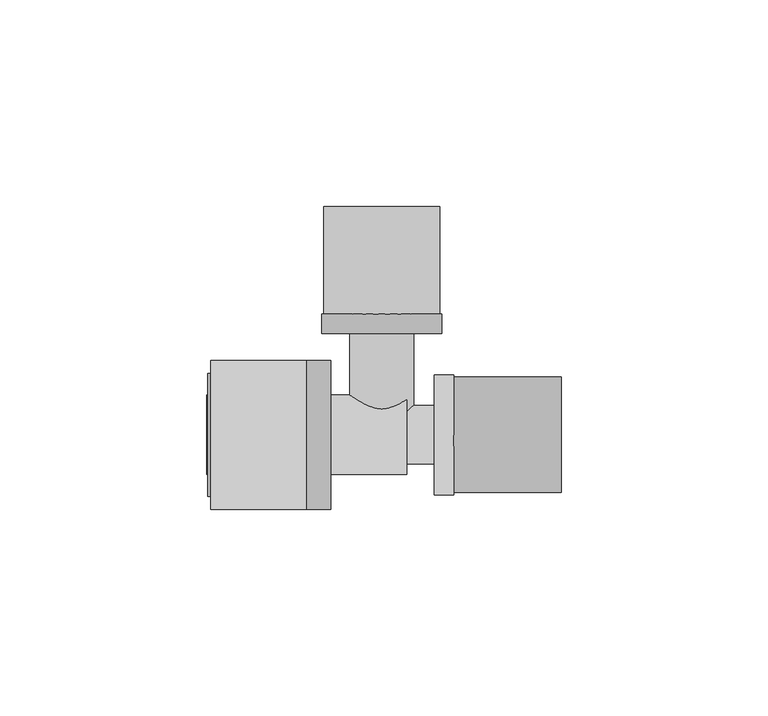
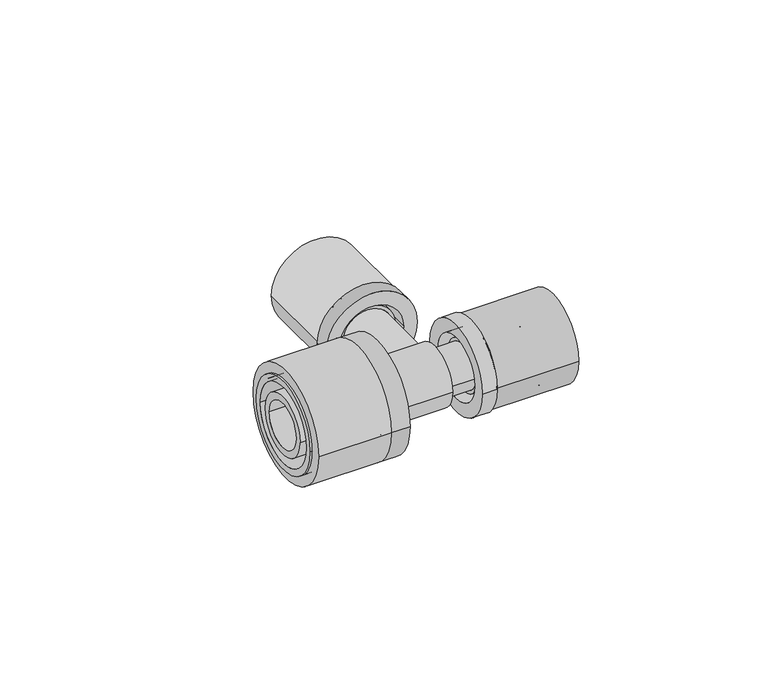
"""IFC4 building model written with IfcOpenShell, lengths in millimetres: pipe fitting geometry, FASTLOC_T-piece_LX : FSL T-Piece LX CZ."""

from ifc_helpers import new_model, si_unit, point, frame, origin, origin_2d, place, context, project, spatial, polyline, circle_curve, trimmed, segment, composite_curve, outline, extrude, source, transform, mapped, element, save
from ifc_brep_helpers import plane_surface, cylinder_surface, revolved_surface, advanced_brep


def pipe_fitting_5d5decb5(model_context):
    return source(origin(), model_context, "Body", "SolidModel", [
        extrude(outline(composite_curve([segment(trimmed(circle_curve(origin_2d(), 14.0), [point((-14.0, 0.0))], [point((14.0, 0.0))], False, "CARTESIAN"), True, "CONTINUOUS"), segment(trimmed(circle_curve(origin_2d(), 14.0), [point((14.0, 0.0))], [point((-14.0, 0.0))], False, "CARTESIAN"), True, "CONTINUOUS")], self_intersect=False), holes=[composite_curve([segment(trimmed(circle_curve(origin_2d(), 10.7), [point((-10.7, 0.0))], [point((10.7, 0.0))], True, "CARTESIAN"), True, "CONTINUOUS"), segment(trimmed(circle_curve(origin_2d(), 10.7), [point((10.7, 0.0))], [point((-10.7, 0.0))], True, "CARTESIAN"), True, "CONTINUOUS")], self_intersect=False)]), frame((17.4, 0.0, 0.0), z_axis=(1.0, 0.0, 0.0), x_axis=(0.0, 1.0, 0.0)), (0.0, 0.0, 1.0), 26.0),
        advanced_brep(
        [(17.4, 14.5, 0.0), (17.4, -14.5, 0.0), (12.7, -14.5, 0.0), (12.7, 14.5, 0.0), (34.4, 11.85, 0.0), (34.4, -11.85, 0.0), (17.4, -11.85, 0.0), (17.4, 11.85, 0.0), (12.7, 10.15, 0.0), (12.7, -10.15, 0.0), (34.4, -10.15, 0.0), (34.4, 10.15, 0.0)],
        [
            (0, 1, circle_curve(frame((17.4, 0.0, 0.0), z_axis=(-1.0, 0.0, 0.0), x_axis=(0.0, -1.0, 0.0)), 14.5)),
            (1, 2),
            (2, 3, circle_curve(frame((12.7, 0.0, 0.0), z_axis=(1.0, 0.0, 0.0), x_axis=(0.0, -1.0, 0.0)), 14.5)),
            (3, 0),
            (4, 5, circle_curve(frame((34.4, 0.0, 0.0), z_axis=(-1.0, 0.0, 0.0), x_axis=(0.0, -1.0, 0.0)), 11.85)),
            (5, 6),
            (6, 7, circle_curve(frame((17.4, 0.0, 0.0), z_axis=(1.0, 0.0, 0.0), x_axis=(0.0, -1.0, 0.0)), 11.85)),
            (7, 4),
            (8, 9, circle_curve(frame((12.7, 0.0, 0.0), z_axis=(-1.0, 0.0, 0.0), x_axis=(0.0, -1.0, 0.0)), 10.15)),
            (9, 10),
            (10, 11, circle_curve(frame((34.4, 0.0, 0.0), z_axis=(1.0, 0.0, 0.0), x_axis=(0.0, -1.0, 0.0)), 10.15)),
            (11, 8),
            (1, 0, circle_curve(frame((17.4, 0.0, 0.0), z_axis=(-1.0, 0.0, 0.0), x_axis=(0.0, 1.0, 0.0)), 14.5)),
            (3, 2, circle_curve(frame((12.7, 0.0, 0.0), z_axis=(1.0, 0.0, 0.0), x_axis=(0.0, 1.0, 0.0)), 14.5)),
            (6, 7, circle_curve(frame((17.4, 0.0, 0.0), z_axis=(-1.0, 0.0, 0.0), x_axis=(0.0, 1.0, 0.0)), 11.85)),
            (5, 4, circle_curve(frame((34.4, 0.0, 0.0), z_axis=(-1.0, 0.0, 0.0), x_axis=(0.0, 1.0, 0.0)), 11.85)),
            (10, 11, circle_curve(frame((34.4, 0.0, 0.0), z_axis=(-1.0, 0.0, 0.0), x_axis=(0.0, 1.0, 0.0)), 10.15)),
            (9, 8, circle_curve(frame((12.7, 0.0, 0.0), z_axis=(-1.0, 0.0, 0.0), x_axis=(0.0, 1.0, 0.0)), 10.15)),
        ],
        [
            cylinder_surface(frame((12.7, 0.0, 0.0), z_axis=(1.0, 0.0, 0.0), x_axis=(0.0, -1.0, 0.0)), 14.5),
            cylinder_surface(frame((12.7, 0.0, 0.0), z_axis=(1.0, 0.0, 0.0), x_axis=(0.0, -1.0, 0.0)), 11.85),
            revolved_surface(polyline([(34.4, -10.15, 0.0), (12.7, -10.15, 0.0)]), (12.7, 0.0, 0.0), (1.0, 0.0, 0.0)),
            cylinder_surface(frame((12.7, 0.0, 0.0), z_axis=(1.0, 0.0, 0.0), x_axis=(0.0, 1.0, 0.0)), 14.5),
            plane_surface(frame((17.4, 0.0, 0.0), z_axis=(1.0, 0.0, 0.0), x_axis=(0.0, 1.0, 0.0))),
            cylinder_surface(frame((12.7, 0.0, 0.0), z_axis=(1.0, 0.0, 0.0), x_axis=(0.0, 1.0, 0.0)), 11.85),
            plane_surface(frame((34.4, 0.0, 0.0), z_axis=(1.0, 0.0, 0.0), x_axis=(0.0, 1.0, 0.0))),
            revolved_surface(polyline([(34.4, 10.15, 0.0), (12.7, 10.15, 0.0)]), (12.7, 0.0, 0.0), (1.0, 0.0, 0.0)),
            plane_surface(frame((12.7, 0.0, 0.0), z_axis=(-1.0, 0.0, 0.0), x_axis=(0.0, 1.0, 0.0))),
        ],
        [
            (0, [[1, 2, 3, 4]]),
            (1, [[5, 6, 7, 8]]),
            (2, [[9, 10, 11, 12]]),
            (3, [[13, -4, 14, -2]]),
            (4, [[-13, -1], [15, -7]]),
            (5, [[16, -8, -15, -6]]),
            (6, [[-16, -5], [17, -11]]),
            (7, [[18, -12, -17, -10]]),
            (8, [[-14, -3], [-18, -9]]),
        ],
    ),
        extrude(outline(composite_curve([segment(trimmed(circle_curve(origin_2d(), 18.0), [point((18.0, 0.0))], [point((-18.0, 0.0))], False, "CARTESIAN"), True, "CONTINUOUS"), segment(trimmed(circle_curve(origin_2d(), 18.0), [point((-18.0, 0.0))], [point((18.0, 0.0))], False, "CARTESIAN"), True, "CONTINUOUS")], self_intersect=False), holes=[composite_curve([segment(trimmed(circle_curve(origin_2d(), 13.5), [point((13.5, 0.0))], [point((-13.5, 0.0))], True, "CARTESIAN"), True, "CONTINUOUS"), segment(trimmed(circle_curve(origin_2d(), 13.5), [point((-13.5, 0.0))], [point((13.5, 0.0))], True, "CARTESIAN"), True, "CONTINUOUS")], self_intersect=False)]), frame((-41.3, 0.0, 0.0), z_axis=(1.0, 0.0, 0.0), x_axis=(0.0, 1.0, 0.0)), (0.0, 0.0, 1.0), 23.0),
        advanced_brep(
        [(-18.3, -18.0, 0.0), (-18.3, 18.0, 0.0), (-12.3, 18.0, 0.0), (-12.3, -18.0, 0.0), (-42.1, -14.85, 0.0), (-42.1, 14.85, 0.0), (-18.3, 14.85, 0.0), (-18.3, -14.85, 0.0), (-12.3, -12.65, 0.0), (-12.3, 12.65, 0.0), (-42.1, 12.65, 0.0), (-42.1, -12.65, 0.0)],
        [
            (0, 1, circle_curve(frame((-18.3, 0.0, 0.0), z_axis=(1.0, 0.0, 0.0), x_axis=(0.0, 1.0, 0.0)), 18.0)),
            (1, 2),
            (2, 3, circle_curve(frame((-12.3, 0.0, 0.0), z_axis=(-1.0, 0.0, 0.0), x_axis=(0.0, 1.0, 0.0)), 18.0)),
            (3, 0),
            (4, 5, circle_curve(frame((-42.1, 0.0, 0.0), z_axis=(1.0, 0.0, 0.0), x_axis=(0.0, 1.0, 0.0)), 14.85)),
            (5, 6),
            (6, 7, circle_curve(frame((-18.3, 0.0, 0.0), z_axis=(-1.0, 0.0, 0.0), x_axis=(0.0, 1.0, 0.0)), 14.85)),
            (7, 4),
            (8, 9, circle_curve(frame((-12.3, 0.0, 0.0), z_axis=(1.0, 0.0, 0.0), x_axis=(0.0, 1.0, 0.0)), 12.65)),
            (9, 10),
            (10, 11, circle_curve(frame((-42.1, 0.0, 0.0), z_axis=(-1.0, 0.0, 0.0), x_axis=(0.0, 1.0, 0.0)), 12.65)),
            (11, 8),
            (1, 0, circle_curve(frame((-18.3, 0.0, 0.0), z_axis=(1.0, 0.0, 0.0), x_axis=(0.0, -1.0, 0.0)), 18.0)),
            (3, 2, circle_curve(frame((-12.3, 0.0, 0.0), z_axis=(-1.0, 0.0, 0.0), x_axis=(0.0, -1.0, 0.0)), 18.0)),
            (6, 7, circle_curve(frame((-18.3, 0.0, 0.0), z_axis=(1.0, 0.0, 0.0), x_axis=(0.0, -1.0, 0.0)), 14.85)),
            (5, 4, circle_curve(frame((-42.1, 0.0, 0.0), z_axis=(1.0, 0.0, 0.0), x_axis=(0.0, -1.0, 0.0)), 14.85)),
            (10, 11, circle_curve(frame((-42.1, 0.0, 0.0), z_axis=(1.0, 0.0, 0.0), x_axis=(0.0, -1.0, 0.0)), 12.65)),
            (9, 8, circle_curve(frame((-12.3, 0.0, 0.0), z_axis=(1.0, 0.0, 0.0), x_axis=(0.0, -1.0, 0.0)), 12.65)),
        ],
        [
            cylinder_surface(frame((-12.3, 0.0, 0.0), z_axis=(-1.0, 0.0, 0.0), x_axis=(0.0, 1.0, 0.0)), 18.0),
            cylinder_surface(frame((-12.3, 0.0, 0.0), z_axis=(-1.0, 0.0, 0.0), x_axis=(0.0, 1.0, 0.0)), 14.85),
            revolved_surface(polyline([(-42.1, 12.65, 0.0), (-12.3, 12.65, 0.0)]), (-12.3, 0.0, 0.0), (-1.0, 0.0, 0.0)),
            cylinder_surface(frame((-12.3, 0.0, 0.0), z_axis=(-1.0, 0.0, 0.0), x_axis=(0.0, -1.0, 0.0)), 18.0),
            plane_surface(frame((-18.3, 0.0, 0.0), z_axis=(-1.0, 0.0, 0.0), x_axis=(0.0, -1.0, 0.0))),
            cylinder_surface(frame((-12.3, 0.0, 0.0), z_axis=(-1.0, 0.0, 0.0), x_axis=(0.0, -1.0, 0.0)), 14.85),
            plane_surface(frame((-42.1, 0.0, 0.0), z_axis=(-1.0, 0.0, 0.0), x_axis=(0.0, -1.0, 0.0))),
            revolved_surface(polyline([(-42.1, -12.65, 0.0), (-12.3, -12.65, 0.0)]), (-12.3, 0.0, 0.0), (-1.0, 0.0, 0.0)),
            plane_surface(frame((-12.3, 0.0, 0.0), z_axis=(1.0, 0.0, 0.0), x_axis=(0.0, -1.0, 0.0))),
        ],
        [
            (0, [[1, 2, 3, 4]]),
            (1, [[5, 6, 7, 8]]),
            (2, [[9, 10, 11, 12]]),
            (3, [[13, -4, 14, -2]]),
            (4, [[-13, -1], [15, -7]]),
            (5, [[16, -8, -15, -6]]),
            (6, [[-16, -5], [17, -11]]),
            (7, [[18, -12, -17, -10]]),
            (8, [[-14, -3], [-18, -9]]),
        ],
    ),
        extrude(outline(composite_curve([segment(trimmed(circle_curve(origin_2d(), 14.0), [point((0.0, 14.0))], [point((0.0, -14.0))], False, "CARTESIAN"), True, "CONTINUOUS"), segment(trimmed(circle_curve(origin_2d(), 14.0), [point((0.0, -14.0))], [point((0.0, 14.0))], False, "CARTESIAN"), True, "CONTINUOUS")], self_intersect=False), holes=[composite_curve([segment(trimmed(circle_curve(origin_2d(), 10.7), [point((0.0, 10.7))], [point((0.0, -10.7))], True, "CARTESIAN"), True, "CONTINUOUS"), segment(trimmed(circle_curve(origin_2d(), 10.7), [point((0.0, -10.7))], [point((0.0, 10.7))], True, "CARTESIAN"), True, "CONTINUOUS")], self_intersect=False)]), frame((0.0, 29.2, 0.0), z_axis=(0.0, 1.0, 0.0), x_axis=(0.0, 0.0, 1.0)), (0.0, 0.0, 1.0), 26.0),
        advanced_brep(
        [(-14.5, 29.2, 0.0), (14.5, 29.2, 0.0), (14.5, 24.5, 0.0), (-14.5, 24.5, 0.0), (-11.85, 46.2, 0.0), (11.85, 46.2, 0.0), (11.85, 29.2, 0.0), (-11.85, 29.2, 0.0), (-10.15, 24.5, 0.0), (10.15, 24.5, 0.0), (10.15, 46.2, 0.0), (-10.15, 46.2, 0.0)],
        [
            (0, 1, circle_curve(frame((0.0, 29.2, 0.0), z_axis=(0.0, -1.0, 0.0), x_axis=(1.0, 0.0, 0.0)), 14.5)),
            (1, 2),
            (2, 3, circle_curve(frame((0.0, 24.5, 0.0), z_axis=(0.0, 1.0, 0.0), x_axis=(1.0, 0.0, 0.0)), 14.5)),
            (3, 0),
            (4, 5, circle_curve(frame((0.0, 46.2, 0.0), z_axis=(0.0, -1.0, 0.0), x_axis=(1.0, 0.0, 0.0)), 11.85)),
            (5, 6),
            (6, 7, circle_curve(frame((0.0, 29.2, 0.0), z_axis=(0.0, 1.0, 0.0), x_axis=(1.0, 0.0, 0.0)), 11.85)),
            (7, 4),
            (8, 9, circle_curve(frame((0.0, 24.5, 0.0), z_axis=(0.0, -1.0, 0.0), x_axis=(1.0, 0.0, 0.0)), 10.15)),
            (9, 10),
            (10, 11, circle_curve(frame((0.0, 46.2, 0.0), z_axis=(0.0, 1.0, 0.0), x_axis=(1.0, 0.0, 0.0)), 10.15)),
            (11, 8),
            (1, 0, circle_curve(frame((0.0, 29.2, 0.0), z_axis=(0.0, -1.0, 0.0), x_axis=(-1.0, 0.0, 0.0)), 14.5)),
            (3, 2, circle_curve(frame((0.0, 24.5, 0.0), z_axis=(0.0, 1.0, 0.0), x_axis=(-1.0, 0.0, 0.0)), 14.5)),
            (6, 7, circle_curve(frame((0.0, 29.2, 0.0), z_axis=(0.0, -1.0, 0.0), x_axis=(-1.0, 0.0, 0.0)), 11.85)),
            (5, 4, circle_curve(frame((0.0, 46.2, 0.0), z_axis=(0.0, -1.0, 0.0), x_axis=(-1.0, 0.0, 0.0)), 11.85)),
            (10, 11, circle_curve(frame((0.0, 46.2, 0.0), z_axis=(0.0, -1.0, 0.0), x_axis=(-1.0, 0.0, 0.0)), 10.15)),
            (9, 8, circle_curve(frame((0.0, 24.5, 0.0), z_axis=(0.0, -1.0, 0.0), x_axis=(-1.0, 0.0, 0.0)), 10.15)),
        ],
        [
            cylinder_surface(frame((0.0, 24.5, 0.0), z_axis=(0.0, 1.0, 0.0), x_axis=(1.0, 0.0, 0.0)), 14.5),
            cylinder_surface(frame((0.0, 24.5, 0.0), z_axis=(0.0, 1.0, 0.0), x_axis=(1.0, 0.0, 0.0)), 11.85),
            revolved_surface(polyline([(10.15, 46.2, 0.0), (10.15, 24.5, 0.0)]), (0.0, 24.5, 0.0), (0.0, 1.0, 0.0)),
            cylinder_surface(frame((0.0, 24.5, 0.0), z_axis=(0.0, 1.0, 0.0), x_axis=(-1.0, 0.0, 0.0)), 14.5),
            plane_surface(frame((0.0, 29.2, 0.0), z_axis=(0.0, 1.0, 0.0), x_axis=(-1.0, 0.0, 0.0))),
            cylinder_surface(frame((0.0, 24.5, 0.0), z_axis=(0.0, 1.0, 0.0), x_axis=(-1.0, 0.0, 0.0)), 11.85),
            plane_surface(frame((0.0, 46.2, 0.0), z_axis=(0.0, 1.0, 0.0), x_axis=(-1.0, 0.0, 0.0))),
            revolved_surface(polyline([(-10.15, 46.2, 0.0), (-10.15, 24.5, 0.0)]), (0.0, 24.5, 0.0), (0.0, 1.0, 0.0)),
            plane_surface(frame((0.0, 24.5, 0.0), z_axis=(0.0, -1.0, 0.0), x_axis=(-1.0, 0.0, 0.0))),
        ],
        [
            (0, [[1, 2, 3, 4]]),
            (1, [[5, 6, 7, 8]]),
            (2, [[9, 10, 11, 12]]),
            (3, [[13, -4, 14, -2]]),
            (4, [[-13, -1], [15, -7]]),
            (5, [[16, -8, -15, -6]]),
            (6, [[-16, -5], [17, -11]]),
            (7, [[18, -12, -17, -10]]),
            (8, [[-14, -3], [-18, -9]]),
        ],
    ),
        advanced_brep(
        [(14.73, 7.1, 0.0), (14.73, -7.1, 0.0), (6.0, -7.1, 0.0), (6.0, 7.1, 0.0), (17.4, 8.15, 0.0), (17.4, -8.15, 0.0), (14.73, -8.15, 0.0), (14.73, 8.15, 0.0), (34.8, 7.1, 0.0), (34.8, -7.1, 0.0), (17.4, -7.1, 0.0), (17.4, 7.1, 0.0), (4.0, 5.1, 0.0), (4.0, -5.1, 0.0), (34.8, -5.1, 0.0), (34.8, 5.1, 0.0), (-42.3, 7.35, 0.0), (-42.3, -7.35, 0.0), (4.0, -7.35, 0.0), (4.0, 7.35, 0.0), (-18.3, 9.6, 0.0), (-18.3, -9.6, 0.0), (-42.3, -9.6, 0.0), (-42.3, 9.6, 0.0), (-15.5, 11.1, 0.0), (-15.5, -11.1, 0.0), (-18.3, -11.1, 0.0), (-18.3, 11.1, 0.0), (6.0, 9.6, 0.0), (6.0, -9.6, 0.0), (-15.5, -9.6, 0.0), (-15.5, 9.6, 0.0)],
        [
            (0, 1, circle_curve(frame((14.73, 0.0, 0.0), z_axis=(-1.0, 0.0, 0.0), x_axis=(0.0, -1.0, 0.0)), 7.1)),
            (1, 2),
            (2, 3, circle_curve(frame((6.0, 0.0, 0.0), z_axis=(1.0, 0.0, 0.0), x_axis=(0.0, -1.0, 0.0)), 7.1)),
            (3, 0),
            (4, 5, circle_curve(frame((17.4, 0.0, 0.0), z_axis=(-1.0, 0.0, 0.0), x_axis=(0.0, -1.0, 0.0)), 8.15)),
            (5, 6),
            (6, 7, circle_curve(frame((14.73, 0.0, 0.0), z_axis=(1.0, 0.0, 0.0), x_axis=(0.0, -1.0, 0.0)), 8.15)),
            (7, 4),
            (8, 9, circle_curve(frame((34.8, 0.0, 0.0), z_axis=(-1.0, 0.0, 0.0), x_axis=(0.0, -1.0, 0.0)), 7.1)),
            (9, 10),
            (10, 11, circle_curve(frame((17.4, 0.0, 0.0), z_axis=(1.0, 0.0, 0.0), x_axis=(0.0, -1.0, 0.0)), 7.1)),
            (11, 8),
            (12, 13, circle_curve(frame((4.0, 0.0, 0.0), z_axis=(-1.0, 0.0, 0.0), x_axis=(0.0, -1.0, 0.0)), 5.1)),
            (13, 14),
            (14, 15, circle_curve(frame((34.8, 0.0, 0.0), z_axis=(1.0, 0.0, 0.0), x_axis=(0.0, -1.0, 0.0)), 5.1)),
            (15, 12),
            (16, 17, circle_curve(frame((-42.3, 0.0, 0.0), z_axis=(-1.0, 0.0, 0.0), x_axis=(0.0, -1.0, 0.0)), 7.35)),
            (17, 18),
            (18, 19, circle_curve(frame((4.0, 0.0, 0.0), z_axis=(1.0, 0.0, 0.0), x_axis=(0.0, -1.0, 0.0)), 7.35)),
            (19, 16),
            (20, 21, circle_curve(frame((-18.3, 0.0, 0.0), z_axis=(-1.0, 0.0, 0.0), x_axis=(0.0, -1.0, 0.0)), 9.6)),
            (21, 22),
            (22, 23, circle_curve(frame((-42.3, 0.0, 0.0), z_axis=(1.0, 0.0, 0.0), x_axis=(0.0, -1.0, 0.0)), 9.6)),
            (23, 20),
            (24, 25, circle_curve(frame((-15.5, 0.0, 0.0), z_axis=(-1.0, 0.0, 0.0), x_axis=(0.0, -1.0, 0.0)), 11.1)),
            (25, 26),
            (26, 27, circle_curve(frame((-18.3, 0.0, 0.0), z_axis=(1.0, 0.0, 0.0), x_axis=(0.0, -1.0, 0.0)), 11.1)),
            (27, 24),
            (28, 29, circle_curve(frame((6.0, 0.0, 0.0), z_axis=(-1.0, 0.0, 0.0), x_axis=(0.0, -1.0, 0.0)), 9.6)),
            (29, 30),
            (30, 31, circle_curve(frame((-15.5, 0.0, 0.0), z_axis=(1.0, 0.0, 0.0), x_axis=(0.0, -1.0, 0.0)), 9.6)),
            (31, 28),
            (28, 29, circle_curve(frame((6.0, 0.0, 0.0), z_axis=(1.0, 0.0, 0.0), x_axis=(0.0, 1.0, 0.0)), 9.6)),
            (2, 3, circle_curve(frame((6.0, 0.0, 0.0), z_axis=(-1.0, 0.0, 0.0), x_axis=(0.0, 1.0, 0.0)), 7.1)),
            (1, 0, circle_curve(frame((14.73, 0.0, 0.0), z_axis=(-1.0, 0.0, 0.0), x_axis=(0.0, 1.0, 0.0)), 7.1)),
            (6, 7, circle_curve(frame((14.73, 0.0, 0.0), z_axis=(-1.0, 0.0, 0.0), x_axis=(0.0, 1.0, 0.0)), 8.15)),
            (5, 4, circle_curve(frame((17.4, 0.0, 0.0), z_axis=(-1.0, 0.0, 0.0), x_axis=(0.0, 1.0, 0.0)), 8.15)),
            (10, 11, circle_curve(frame((17.4, 0.0, 0.0), z_axis=(-1.0, 0.0, 0.0), x_axis=(0.0, 1.0, 0.0)), 7.1)),
            (9, 8, circle_curve(frame((34.8, 0.0, 0.0), z_axis=(-1.0, 0.0, 0.0), x_axis=(0.0, 1.0, 0.0)), 7.1)),
            (14, 15, circle_curve(frame((34.8, 0.0, 0.0), z_axis=(-1.0, 0.0, 0.0), x_axis=(0.0, 1.0, 0.0)), 5.1)),
            (13, 12, circle_curve(frame((4.0, 0.0, 0.0), z_axis=(-1.0, 0.0, 0.0), x_axis=(0.0, 1.0, 0.0)), 5.1)),
            (18, 19, circle_curve(frame((4.0, 0.0, 0.0), z_axis=(-1.0, 0.0, 0.0), x_axis=(0.0, 1.0, 0.0)), 7.35)),
            (17, 16, circle_curve(frame((-42.3, 0.0, 0.0), z_axis=(-1.0, 0.0, 0.0), x_axis=(0.0, 1.0, 0.0)), 7.35)),
            (22, 23, circle_curve(frame((-42.3, 0.0, 0.0), z_axis=(-1.0, 0.0, 0.0), x_axis=(0.0, 1.0, 0.0)), 9.6)),
            (21, 20, circle_curve(frame((-18.3, 0.0, 0.0), z_axis=(-1.0, 0.0, 0.0), x_axis=(0.0, 1.0, 0.0)), 9.6)),
            (26, 27, circle_curve(frame((-18.3, 0.0, 0.0), z_axis=(-1.0, 0.0, 0.0), x_axis=(0.0, 1.0, 0.0)), 11.1)),
            (25, 24, circle_curve(frame((-15.5, 0.0, 0.0), z_axis=(-1.0, 0.0, 0.0), x_axis=(0.0, 1.0, 0.0)), 11.1)),
            (30, 31, circle_curve(frame((-15.5, 0.0, 0.0), z_axis=(-1.0, 0.0, 0.0), x_axis=(0.0, 1.0, 0.0)), 9.6)),
        ],
        [
            cylinder_surface(frame((0.0, 0.0, 0.0), z_axis=(1.0, 0.0, 0.0), x_axis=(0.0, -1.0, 0.0)), 7.1),
            cylinder_surface(frame((0.0, 0.0, 0.0), z_axis=(1.0, 0.0, 0.0), x_axis=(0.0, -1.0, 0.0)), 8.15),
            revolved_surface(polyline([(34.8, -5.1, 0.0), (4.0, -5.1, 0.0)]), (0.0, 0.0, 0.0), (1.0, 0.0, 0.0)),
            revolved_surface(polyline([(4.0, -7.35, 0.0), (-42.3, -7.35, 0.0)]), (0.0, 0.0, 0.0), (1.0, 0.0, 0.0)),
            cylinder_surface(frame((0.0, 0.0, 0.0), z_axis=(1.0, 0.0, 0.0), x_axis=(0.0, -1.0, 0.0)), 9.6),
            cylinder_surface(frame((0.0, 0.0, 0.0), z_axis=(1.0, 0.0, 0.0), x_axis=(0.0, -1.0, 0.0)), 11.1),
            plane_surface(frame((6.0, 0.0, 0.0), z_axis=(1.0, 0.0, 0.0), x_axis=(0.0, 1.0, 0.0))),
            cylinder_surface(frame((0.0, 0.0, 0.0), z_axis=(1.0, 0.0, 0.0), x_axis=(0.0, 1.0, 0.0)), 7.1),
            plane_surface(frame((14.73, 0.0, 0.0), z_axis=(-1.0, 0.0, 0.0), x_axis=(0.0, 1.0, 0.0))),
            cylinder_surface(frame((0.0, 0.0, 0.0), z_axis=(1.0, 0.0, 0.0), x_axis=(0.0, 1.0, 0.0)), 8.15),
            plane_surface(frame((17.4, 0.0, 0.0), z_axis=(1.0, 0.0, 0.0), x_axis=(0.0, 1.0, 0.0))),
            plane_surface(frame((34.8, 0.0, 0.0), z_axis=(1.0, 0.0, 0.0), x_axis=(0.0, 1.0, 0.0))),
            revolved_surface(polyline([(34.8, 5.1, 0.0), (4.0, 5.1, 0.0)]), (0.0, 0.0, 0.0), (1.0, 0.0, 0.0)),
            plane_surface(frame((4.0, 0.0, 0.0), z_axis=(-1.0, 0.0, 0.0), x_axis=(0.0, 1.0, 0.0))),
            revolved_surface(polyline([(4.0, 7.35, 0.0), (-42.3, 7.35, 0.0)]), (0.0, 0.0, 0.0), (1.0, 0.0, 0.0)),
            plane_surface(frame((-42.3, 0.0, 0.0), z_axis=(-1.0, 0.0, 0.0), x_axis=(0.0, 1.0, 0.0))),
            cylinder_surface(frame((0.0, 0.0, 0.0), z_axis=(1.0, 0.0, 0.0), x_axis=(0.0, 1.0, 0.0)), 9.6),
            plane_surface(frame((-18.3, 0.0, 0.0), z_axis=(-1.0, 0.0, 0.0), x_axis=(0.0, 1.0, 0.0))),
            cylinder_surface(frame((0.0, 0.0, 0.0), z_axis=(1.0, 0.0, 0.0), x_axis=(0.0, 1.0, 0.0)), 11.1),
            plane_surface(frame((-15.5, 0.0, 0.0), z_axis=(1.0, 0.0, 0.0), x_axis=(0.0, 1.0, 0.0))),
        ],
        [
            (0, [[1, 2, 3, 4]]),
            (1, [[5, 6, 7, 8]]),
            (0, [[9, 10, 11, 12]]),
            (2, [[13, 14, 15, 16]]),
            (3, [[17, 18, 19, 20]]),
            (4, [[21, 22, 23, 24]]),
            (5, [[25, 26, 27, 28]]),
            (4, [[29, 30, 31, 32]]),
            (6, [[33, -29], [34, -3]]),
            (7, [[35, -4, -34, -2]]),
            (8, [[36, -7], [-35, -1]]),
            (9, [[37, -8, -36, -6]]),
            (10, [[-37, -5], [38, -11]]),
            (7, [[39, -12, -38, -10]]),
            (11, [[-39, -9], [40, -15]]),
            (12, [[41, -16, -40, -14]]),
            (13, [[42, -19], [-41, -13]]),
            (14, [[43, -20, -42, -18]]),
            (15, [[44, -23], [-43, -17]]),
            (16, [[45, -24, -44, -22]]),
            (17, [[46, -27], [-45, -21]]),
            (18, [[47, -28, -46, -26]]),
            (19, [[-47, -25], [48, -31]]),
            (16, [[-33, -32, -48, -30]]),
        ],
    ),
        advanced_brep(
        [(5.75, 46.6, 0.0), (-5.75, 46.6, 0.0), (-5.75, 0.0, 0.0), (5.75, 0.0, 0.0), (7.75, 0.0, 0.0), (-7.75, 0.0, 0.0), (-7.75, 26.53, 0.0), (7.75, 26.53, 0.0), (8.8, 26.53, 0.0), (-8.8, 26.53, 0.0), (-8.8, 29.2, 0.0), (8.8, 29.2, 0.0), (7.75, 29.2, 0.0), (-7.75, 29.2, 0.0), (-7.75, 46.6, 0.0), (7.75, 46.6, 0.0)],
        [
            (0, 1, circle_curve(frame((0.0, 46.6, 0.0), z_axis=(0.0, 1.0, 0.0), x_axis=(-1.0, 0.0, 0.0)), 5.75)),
            (1, 2),
            (2, 3, circle_curve(frame((0.0, 0.0, 0.0), z_axis=(0.0, -1.0, 0.0), x_axis=(-1.0, 0.0, 0.0)), 5.75)),
            (3, 0),
            (4, 5, circle_curve(frame((0.0, 0.0, 0.0), z_axis=(0.0, 1.0, 0.0), x_axis=(-1.0, 0.0, 0.0)), 7.75)),
            (5, 6),
            (6, 7, circle_curve(frame((0.0, 26.53, 0.0), z_axis=(0.0, -1.0, 0.0), x_axis=(-1.0, 0.0, 0.0)), 7.75)),
            (7, 4),
            (8, 9, circle_curve(frame((0.0, 26.53, 0.0), z_axis=(0.0, 1.0, 0.0), x_axis=(-1.0, 0.0, 0.0)), 8.8)),
            (9, 10),
            (10, 11, circle_curve(frame((0.0, 29.2, 0.0), z_axis=(0.0, -1.0, 0.0), x_axis=(-1.0, 0.0, 0.0)), 8.8)),
            (11, 8),
            (12, 13, circle_curve(frame((0.0, 29.2, 0.0), z_axis=(0.0, 1.0, 0.0), x_axis=(-1.0, 0.0, 0.0)), 7.75)),
            (13, 14),
            (14, 15, circle_curve(frame((0.0, 46.6, 0.0), z_axis=(0.0, -1.0, 0.0), x_axis=(-1.0, 0.0, 0.0)), 7.75)),
            (15, 12),
            (1, 0, circle_curve(frame((0.0, 46.6, 0.0), z_axis=(0.0, 1.0, 0.0), x_axis=(1.0, 0.0, 0.0)), 5.75)),
            (3, 2, circle_curve(frame((0.0, 0.0, 0.0), z_axis=(0.0, -1.0, 0.0), x_axis=(1.0, 0.0, 0.0)), 5.75)),
            (4, 5, circle_curve(frame((0.0, 0.0, 0.0), z_axis=(0.0, -1.0, 0.0), x_axis=(1.0, 0.0, 0.0)), 7.75)),
            (7, 6, circle_curve(frame((0.0, 26.53, 0.0), z_axis=(0.0, -1.0, 0.0), x_axis=(1.0, 0.0, 0.0)), 7.75)),
            (8, 9, circle_curve(frame((0.0, 26.53, 0.0), z_axis=(0.0, -1.0, 0.0), x_axis=(1.0, 0.0, 0.0)), 8.8)),
            (11, 10, circle_curve(frame((0.0, 29.2, 0.0), z_axis=(0.0, -1.0, 0.0), x_axis=(1.0, 0.0, 0.0)), 8.8)),
            (12, 13, circle_curve(frame((0.0, 29.2, 0.0), z_axis=(0.0, -1.0, 0.0), x_axis=(1.0, 0.0, 0.0)), 7.75)),
            (15, 14, circle_curve(frame((0.0, 46.6, 0.0), z_axis=(0.0, -1.0, 0.0), x_axis=(1.0, 0.0, 0.0)), 7.75)),
        ],
        [
            revolved_surface(polyline([(-5.75, 0.0, 0.0), (-5.75, 46.6, 0.0)]), (0.0, 0.0, 0.0), (0.0, -1.0, 0.0)),
            cylinder_surface(frame((0.0, 0.0, 0.0), z_axis=(0.0, -1.0, 0.0), x_axis=(-1.0, 0.0, 0.0)), 7.75),
            cylinder_surface(frame((0.0, 0.0, 0.0), z_axis=(0.0, -1.0, 0.0), x_axis=(-1.0, 0.0, 0.0)), 8.8),
            revolved_surface(polyline([(5.75, 0.0, 0.0), (5.75, 46.6, 0.0)]), (0.0, 0.0, 0.0), (0.0, -1.0, 0.0)),
            plane_surface(frame((0.0, 0.0, 0.0), z_axis=(0.0, -1.0, 0.0), x_axis=(1.0, 0.0, 0.0))),
            cylinder_surface(frame((0.0, 0.0, 0.0), z_axis=(0.0, -1.0, 0.0), x_axis=(1.0, 0.0, 0.0)), 7.75),
            plane_surface(frame((0.0, 26.53, 0.0), z_axis=(0.0, -1.0, 0.0), x_axis=(1.0, 0.0, 0.0))),
            cylinder_surface(frame((0.0, 0.0, 0.0), z_axis=(0.0, -1.0, 0.0), x_axis=(1.0, 0.0, 0.0)), 8.8),
            plane_surface(frame((0.0, 29.2, 0.0), z_axis=(0.0, 1.0, 0.0), x_axis=(1.0, 0.0, 0.0))),
            plane_surface(frame((0.0, 46.6, 0.0), z_axis=(0.0, 1.0, 0.0), x_axis=(1.0, 0.0, 0.0))),
        ],
        [
            (0, [[1, 2, 3, 4]]),
            (1, [[5, 6, 7, 8]]),
            (2, [[9, 10, 11, 12]]),
            (1, [[13, 14, 15, 16]]),
            (3, [[17, -4, 18, -2]]),
            (4, [[19, -5], [-18, -3]]),
            (5, [[-19, -8, 20, -6]]),
            (6, [[21, -9], [-20, -7]]),
            (7, [[-21, -12, 22, -10]]),
            (8, [[-22, -11], [23, -13]]),
            (5, [[-23, -16, 24, -14]]),
            (9, [[-24, -15], [-17, -1]]),
        ],
    ),
    ])


if __name__ == "__main__":
    model = new_model("IFC4")
    model_context = context("Model", 3, world=origin())
    ifc_project = project(units=[si_unit("LENGTHUNIT", "METRE", prefix="MILLI")], contexts=[model_context])
    site = spatial("IfcSite", under=ifc_project)
    building = spatial("IfcBuilding", under=site)
    placement = place(None, origin())
    pipe_fitting_shape = pipe_fitting_5d5decb5(model_context)
    element("IfcPipeFitting", 1, ObjectType="FASTLOC_T-piece_LX : FSL T-Piece LX CZ", at=placement, inside=building, context=model_context, shape_type="MappedRepresentation", body=[
        mapped(pipe_fitting_shape, transform((0.0, 0.0, 0.0), x_axis=(1.0, 0.0, 0.0), y_axis=(0.0, 1.0, 0.0), z_axis=(0.0, 0.0, 1.0))),
    ])
    save(model, "model.ifc")
